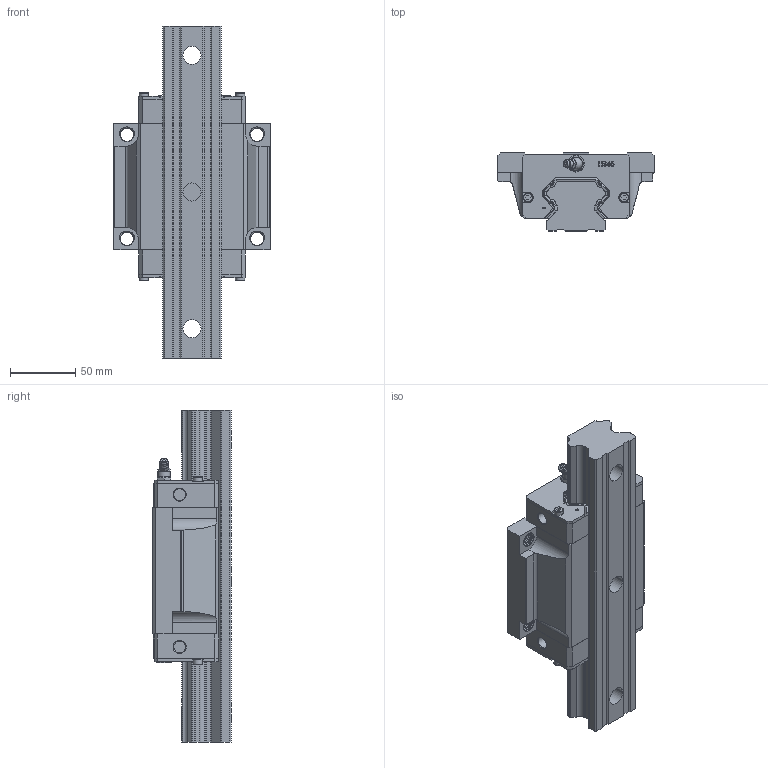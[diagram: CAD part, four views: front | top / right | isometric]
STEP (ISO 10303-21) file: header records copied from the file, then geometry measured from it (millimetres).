
FILE_DESCRIPTION(/* description */ (''),/* implementation_level */ '2;1');
FILE_NAME(/* name */ 'HBW45CC.stp',/* time_stamp */ '2024-09-29T21:00:35+08:00',/* author */ (''),/* organization */ (''),/* preprocessor_version */ 'ST-DEVELOPER v16.7',/* originating_system */ 'SIEMENS PLM Software NX 12.0',/* authorisation */ '');
FILE_SCHEMA (('AUTOMOTIVE_DESIGN { 1 0 10303 214 3 1 1 1 }'));
Products named in the file (3): HBW45CC; HBR45; HBW45CC_stp
Assembly tree (2 placements, depth 2):
  HBW45CC_stp
    HBR45
    HBW45CC
Bounding box: 120 x 60 x 255 mm (x, y, z)
Volume: 844764.1 mm3; surface area: 128878.5 mm2
Topology: 2 solids, 8 shells, 941 faces, 2486 edges, 1621 vertices
Faces by surface type: plane 588, cylinder 146, extrusion 100, cone 44, bspline 38, torus 22, sphere 3
Full cylindrical faces by diameter (mm): 3 x1, 4.4 x4, 6.6 x1, 7 x4, 9 x4, 9.5 x1, 10.003 x2, 10.1 x2, 12 x1, 12.5 x2
Entity records: 67735 total; most frequent: CARTESIAN_POINT 39507, ORIENTED_EDGE 4812, DIRECTION 4036, EDGE_CURVE 2406, VECTOR 1692, VERTEX_POINT 1598, LINE 1592, AXIS2_PLACEMENT_3D 1172
